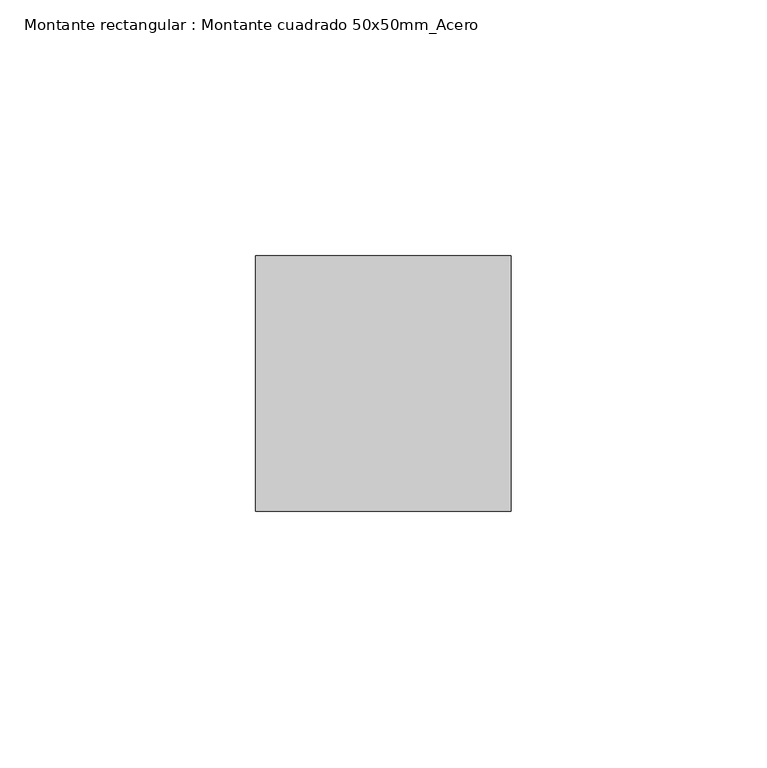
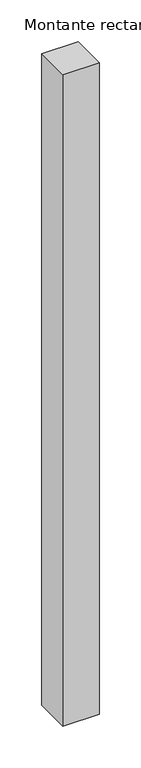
"""IFC4 building model written with IfcOpenShell, lengths in millimetres: member geometry, Montante rectangular : Montante cuadrado 50x50mm_Acero."""

from ifc_helpers import new_model, si_unit, frame, origin, place, context, project, spatial, polyline, outline, extrude, source, transform, mapped, element, save


def montante_rectangular_montante_cuadrado_50x50mm_acero_c9ce966c(model_context):
    return source(origin(), model_context, "Body", "SweptSolid", [
        extrude(outline(polyline([(0.0, 0.0), (0.0, -50.0), (-50.0, -50.0), (-50.0, 0.0), (0.0, 0.0)])), frame((0.0, 0.0, -950.0), z_axis=(0.0, 0.0, 1.0), x_axis=(1.0, 0.0, 0.0)), (0.0, 0.0, 1.0), 950.0),
    ])


if __name__ == "__main__":
    model = new_model("IFC4")
    model_context = context("Model", 3, world=origin())
    ifc_project = project(units=[si_unit("LENGTHUNIT", "METRE", prefix="MILLI")], contexts=[model_context])
    site = spatial("IfcSite", under=ifc_project)
    building = spatial("IfcBuilding", under=site)
    placement = place(None, origin())
    montante_rectangular_montante_cuadrado_50x50mm_acero_shape = montante_rectangular_montante_cuadrado_50x50mm_acero_c9ce966c(model_context)
    element("IfcMember", 1, ObjectType="Montante rectangular : Montante cuadrado 50x50mm_Acero", at=placement, inside=building, context=model_context, shape_type="MappedRepresentation", body=[
        mapped(montante_rectangular_montante_cuadrado_50x50mm_acero_shape, transform((0.0, 0.0, 0.0), x_axis=(1.0, 0.0, 0.0), y_axis=(0.0, 1.0, 0.0), z_axis=(0.0, 0.0, 1.0))),
    ])
    save(model, "model.ifc")
